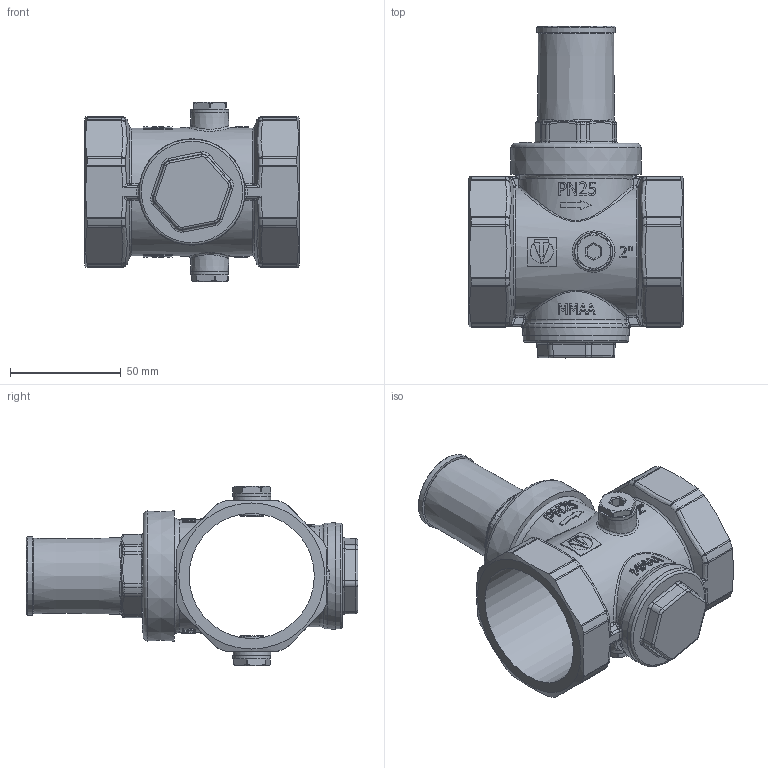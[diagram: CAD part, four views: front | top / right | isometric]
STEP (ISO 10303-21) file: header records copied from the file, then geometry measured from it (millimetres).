
FILE_DESCRIPTION(/* description */ (''),/* implementation_level */ '2;1');
FILE_NAME(/* name */ 'F:\Артём\00000\Работа удаленка\VALTEC 3D 2021-25\VT.086.NH.09.stp',/* time_stamp */ '2021-10-04T13:04:45+03:00',/* author */ ('almis'),/* organization */ (''),/* preprocessor_version */ 'ST-DEVELOPER v18',/* originating_system */ 'Autodesk Inventor 2020',/* authorisation */ '');
FILE_SCHEMA (('AUTOMOTIVE_DESIGN { 1 0 10303 214 3 1 1 }'));
Length unit declared in the file: millimetre
Products named in the file (1): VT.086.NH.09
Bounding box: 97 x 150 x 81 mm (x, y, z)
Volume: 239355.8 mm3; surface area: 72455.7 mm2
Topology: 6 solids, 6 shells, 1058 faces, 2653 edges, 1654 vertices
Faces by surface type: plane 427, bspline 230, cylinder 211, torus 79, cone 63, sphere 48
Full cylindrical faces by diameter (mm): 5 x1, 11 x4, 13.157 x2, 17.1 x2, 35.5 x1, 40.4 x1, 42 x1, 48 x1, 52.5 x1, 55 x1, 56.6 x1
Entity records: 40704 total; most frequent: CARTESIAN_POINT 16405, ORIENTED_EDGE 5290, DIRECTION 4580, EDGE_CURVE 2645, AXIS2_PLACEMENT_3D 1721, VERTEX_POINT 1654, LINE 1138, VECTOR 1138
